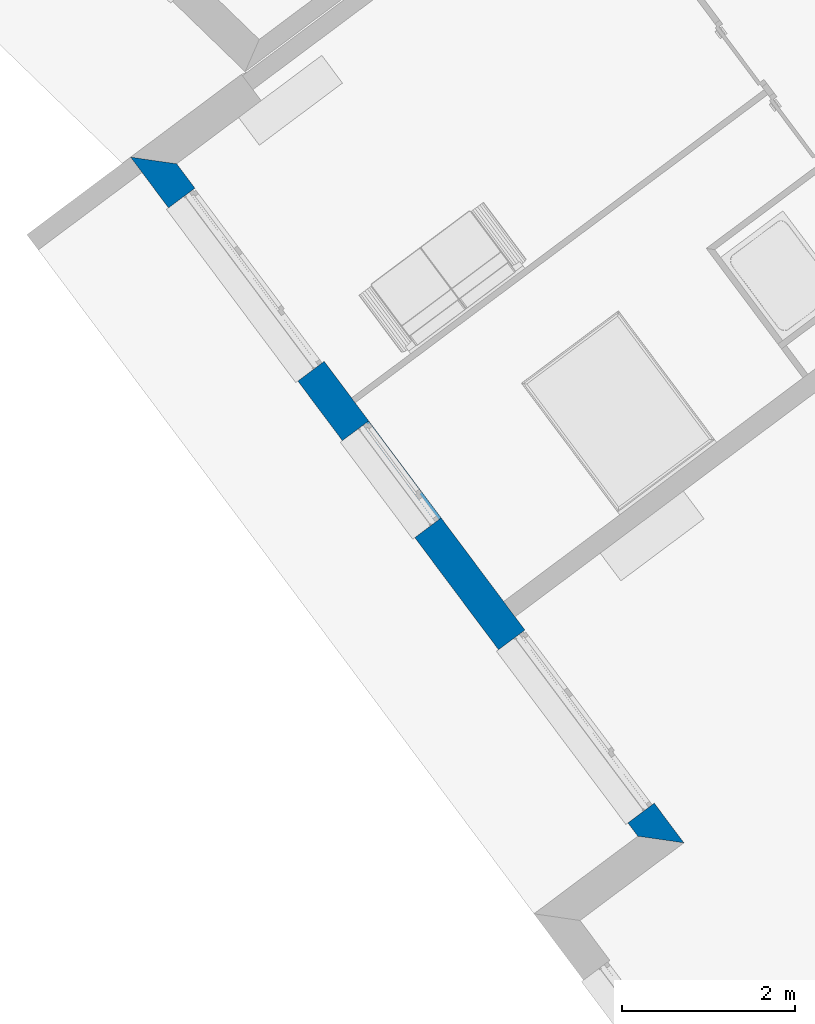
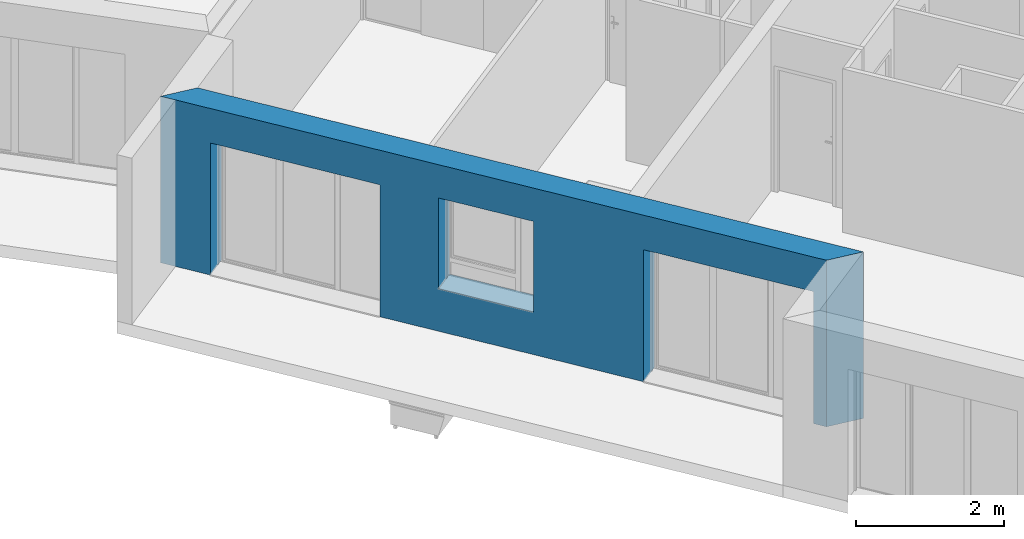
# One storey, part 5 of 195: 1 wall, 3 openings.
"""IFC2X3 building model written with IfcOpenShell, lengths in metres."""

import ifcopenshell
import ifcopenshell.guid

model = None  # the IFC model being written
_history = None  # IfcOwnerHistory: only IFC2X3 demands one
_inside = {}  # id of a spatial element -> (the spatial element, [elements in it])
_under = {}  # id of a project, library or spatial element -> (it, [spatial elements below it])
_declared = {}  # id of a project -> (the project, [libraries it declares])
_typed = {}  # id of a type object -> (the type object, [elements of that type])
_made_of = {}  # id of a material, layer set ... -> (it, [elements and type objects made of it])


def new_model(schema):
    """Start an empty IFC model of exactly this schema.

    Asked for "IFC4X3", IfcOpenShell would pick the latest addendum, in which some entities
    have other attributes; the version numbers below select the first issue.
    IFC2X3 requires an IfcOwnerHistory on every rooted entity: one is made here for all.
    """
    global model, _history
    if schema == "IFC4X3":
        model = ifcopenshell.file(schema_version=(4, 3, 0, 0))
    else:
        model = ifcopenshell.file(schema=schema)
    _inside.clear()
    _under.clear()
    _declared.clear()
    _typed.clear()
    _made_of.clear()
    _history = None
    if model.schema == "IFC2X3":
        org = make("IfcOrganization", Name="unknown")
        user = make(
            "IfcPersonAndOrganization",
            ThePerson=make("IfcPerson", FamilyName="unknown"),
            TheOrganization=org,
        )
        app = make(
            "IfcApplication",
            ApplicationDeveloper=org,
            Version="unknown",
            ApplicationFullName="unknown",
            ApplicationIdentifier="unknown",
        )
        _history = make(
            "IfcOwnerHistory",
            OwningUser=user,
            OwningApplication=app,
            ChangeAction="ADDED",
            CreationDate=0,
        )
    return model


def make(cls, **values):
    """One entity of the class cls with the attributes given. An attribute that is None is left unset."""
    return model.create_entity(
        cls, **{name: value for name, value in values.items() if value is not None}
    )


def entity(cls, *values):
    """Any entity or typed value of the class cls, its attributes in the order of the schema. None: left unset."""
    e = model.create_entity(cls)
    for i, value in enumerate(values):
        if value is not None:
            e[i] = value
    return e


def rooted(cls, **values):
    """An entity with a GlobalId (a new one), such as an element, a storey or a relation."""
    return make(cls, GlobalId=ifcopenshell.guid.new(), OwnerHistory=_history, **values)


def si_unit(unit_type, name, prefix=None):
    """IfcSIUnit, for example si_unit("LENGTHUNIT", "METRE", prefix="MILLI")."""
    return make("IfcSIUnit", UnitType=unit_type, Prefix=prefix, Name=name)


def converted_unit(unit_type, name, factor, base, dimensions=None, offset=None):
    """IfcConversionBasedUnit, such as the inch: factor (a typed value) times the base unit."""
    return make(
        "IfcConversionBasedUnit"
        if offset is None
        else "IfcConversionBasedUnitWithOffset",
        ConversionOffset=offset,
        Dimensions=None
        if dimensions is None
        else entity("IfcDimensionalExponents", *dimensions),
        UnitType=unit_type,
        Name=name,
        ConversionFactor=make(
            "IfcMeasureWithUnit", ValueComponent=factor, UnitComponent=base
        ),
    )


def derived_unit(unit_type, elements):
    """IfcDerivedUnit: a product of units, each with its exponent."""
    return make(
        "IfcDerivedUnit",
        Elements=[
            make("IfcDerivedUnitElement", Unit=unit, Exponent=power)
            for unit, power in elements
        ],
        UnitType=unit_type,
    )


def money_unit(currency):
    """IfcMonetaryUnit."""
    return make("IfcMonetaryUnit", Currency=currency)


def assignment(units):
    """IfcUnitAssignment: the units of a project."""
    return None if units is None else make("IfcUnitAssignment", Units=units)


def point(xyz):
    """IfcCartesianPoint."""
    return None if xyz is None else make("IfcCartesianPoint", Coordinates=xyz)


def direction(xyz):
    """IfcDirection."""
    return None if xyz is None else make("IfcDirection", DirectionRatios=xyz)


def frame(location, z_axis=None, x_axis=None):
    """IfcAxis2Placement3D, a coordinate frame: its origin and axes. An axis left out is left unset."""
    return make(
        "IfcAxis2Placement3D",
        Location=point(location),
        Axis=direction(z_axis),
        RefDirection=direction(x_axis),
    )


def origin_with_axes():
    """The frame at (0, 0, 0) with the z axis (0, 0, 1) and the x axis (1, 0, 0) written out."""
    return frame((0.0, 0.0, 0.0), z_axis=(0.0, 0.0, 1.0), x_axis=(1.0, 0.0, 0.0))


def place(relative_to, where):
    """IfcLocalPlacement: puts the frame where relative to a parent placement (None: the world)."""
    return make(
        "IfcLocalPlacement", PlacementRelTo=relative_to, RelativePlacement=where
    )


def context(
    kind, dimensions, precision=None, world=None, true_north=None, identifier=None
):
    """IfcGeometricRepresentationContext, for example the 3D "Model" context."""
    return make(
        "IfcGeometricRepresentationContext",
        ContextIdentifier=identifier,
        ContextType=kind,
        CoordinateSpaceDimension=dimensions,
        Precision=precision,
        WorldCoordinateSystem=world,
        TrueNorth=true_north,
    )


def subcontext(parent, identifier, kind, view, scale=None):
    """IfcGeometricRepresentationSubContext, for example "Body" below "Model"."""
    return make(
        "IfcGeometricRepresentationSubContext",
        ContextIdentifier=identifier,
        ContextType=kind,
        ParentContext=parent,
        TargetScale=scale,
        TargetView=view,
    )


def project(units=None, contexts=None):
    """IfcProject with its units and contexts."""
    return rooted(
        "IfcProject",
        Name="project",
        RepresentationContexts=contexts,
        UnitsInContext=assignment(units),
    )


def spatial(cls, under=None, at=None, **own):
    """A site, building, storey or space (cls), placed at a placement, below another one or the project."""
    s = rooted(cls, ObjectPlacement=at, **own)
    if under is not None:
        _under.setdefault(under.id(), (under, []))[1].append(s)
    return s


def polyline(points):
    """IfcPolyline through the points."""
    return make("IfcPolyline", Points=[point(p) for p in points])


def outline(outer, holes=None, kind="AREA"):
    """IfcArbitraryClosedProfileDef: a profile drawn as a closed curve; with holes, ...WithVoids."""
    if holes is None:
        return make("IfcArbitraryClosedProfileDef", ProfileType=kind, OuterCurve=outer)
    return make(
        "IfcArbitraryProfileDefWithVoids",
        ProfileType=kind,
        OuterCurve=outer,
        InnerCurves=holes,
    )


def extrude(swept, where, along, depth):
    """IfcExtrudedAreaSolid: the profile swept, set in the frame where, extruded along a direction by depth."""
    return make(
        "IfcExtrudedAreaSolid",
        SweptArea=swept,
        Position=where,
        ExtrudedDirection=direction(along),
        Depth=depth,
    )


def faces_of(points, faces, orient=None, outer=None):
    """IfcFace entities. A face is a list of loops; a loop is a list of indices into points, from 0.

    orient and outer hold one flag for each loop. By default every Orientation is true, the
    first loop of a face is its IfcFaceOuterBound and the others are IfcFaceBound.
    """
    made = []
    for i, loops in enumerate(faces):
        bounds = []
        for j, loop in enumerate(loops):
            is_outer = j == 0 if outer is None else outer[i][j]
            bounds.append(
                make(
                    "IfcFaceOuterBound" if is_outer else "IfcFaceBound",
                    Bound=make("IfcPolyLoop", Polygon=[points[k] for k in loop]),
                    Orientation=True if orient is None else orient[i][j],
                )
            )
        made.append(make("IfcFace", Bounds=bounds))
    return made


def faceted_brep(points, faces, orient=None, outer=None, voids=None):
    """IfcFacetedBrep: a solid bounded by flat faces; with voids (closed shells), ...WithVoids."""
    shared = [point(p) for p in points]
    hull = make("IfcClosedShell", CfsFaces=faces_of(shared, faces, orient, outer))
    if voids is None:
        return make("IfcFacetedBrep", Outer=hull)
    return make(
        "IfcFacetedBrepWithVoids",
        Outer=hull,
        Voids=[
            make(cls, CfsFaces=faces_of(shared, fs, o, b)) for cls, fs, o, b in voids
        ],
    )


def shape(context_of_items, identifier, shape_type, items):
    """IfcShapeRepresentation: the items that make up one representation, for example the "Body"."""
    return make(
        "IfcShapeRepresentation",
        ContextOfItems=context_of_items,
        RepresentationIdentifier=identifier,
        RepresentationType=shape_type,
        Items=items,
    )


def material(Name=None, Category=None):
    """IfcMaterial."""
    return make("IfcMaterial", Name=Name, Category=Category)


def layer(
    of_material, thickness, ventilated=None, Name=None, Category=None, Priority=None
):
    """IfcMaterialLayer: one layer of a wall or slab, of a material (None: an air gap)."""
    return make(
        "IfcMaterialLayer",
        Material=of_material,
        LayerThickness=thickness,
        IsVentilated=ventilated,
        Name=Name,
        Category=Category,
        Priority=Priority,
    )


def layer_set(layers, Name=None):
    """IfcMaterialLayerSet."""
    return make("IfcMaterialLayerSet", MaterialLayers=layers, LayerSetName=Name)


def layer_usage(for_layer_set, set_direction, sense, offset, extent=None):
    """IfcMaterialLayerSetUsage: how a layer set lies in its element."""
    return make(
        "IfcMaterialLayerSetUsage",
        ForLayerSet=for_layer_set,
        LayerSetDirection=set_direction,
        DirectionSense=sense,
        OffsetFromReferenceLine=offset,
        ReferenceExtent=extent,
    )


def made_of(thing, what):
    """Note that an element or type object is made of a material, layer set ...; save() writes the relation."""
    if what is not None:
        _made_of.setdefault(what.id(), (what, []))[1].append(thing)
    return thing


def type_object(cls, material=None, **own):
    """A type object (cls), such as IfcWallType, which elements share."""
    return made_of(rooted(cls, **own), material)


def element(
    cls,
    number,
    at=None,
    inside=None,
    cuts=None,
    type_object=None,
    material=None,
    context=None,
    identifier="Body",
    shape_type=None,
    held_by="IfcProductDefinitionShape",
    body=None,
    shapes=None,
    **own,
):
    """One element of the class cls, such as IfcWall. Its Tag is "e" and its number.

    at: its placement. inside: the storey or other place that contains it. cuts: it is an
    opening in that element (IfcRelVoidsElement). A single representation is given by context,
    identifier, shape_type and body (its items); several are given by shapes. held_by: the class
    of the entity that holds the representations. save() writes the other relations.
    """
    e = rooted(cls, Tag="e%d" % number, ObjectPlacement=at, **own)
    if body is not None:
        shapes = [shape(context, identifier, shape_type, body)]
    if shapes is not None:
        e.Representation = make(held_by, Representations=shapes)
    if inside is not None:
        _inside.setdefault(inside.id(), (inside, []))[1].append(e)
    if cuts is not None:
        rooted(
            "IfcRelVoidsElement", RelatingBuildingElement=cuts, RelatedOpeningElement=e
        )
    if type_object is not None:
        _typed.setdefault(type_object.id(), (type_object, []))[1].append(e)
    return made_of(e, material)


def aggregate(whole, parts):
    """IfcRelAggregates: a whole, such as a stair, and the parts it consists of."""
    return rooted("IfcRelAggregates", RelatingObject=whole, RelatedObjects=parts)


def save(model, path):
    """Write the relations noted so far, then the file.

    IfcRelAggregates (storeys below a building ...), IfcRelContainedInSpatialStructure (elements
    in a storey), IfcRelDefinesByType, IfcRelAssociatesMaterial and IfcRelDeclares: one each for
    every whole, place, type object, material and project.
    """
    for whole, parts in _under.values():
        aggregate(whole, parts)
    for where, things in _inside.values():
        rooted(
            "IfcRelContainedInSpatialStructure",
            RelatedElements=things,
            RelatingStructure=where,
        )
    for kind, things in _typed.values():
        rooted("IfcRelDefinesByType", RelatedObjects=things, RelatingType=kind)
    for what, things in _made_of.values():
        rooted("IfcRelAssociatesMaterial", RelatedObjects=things, RelatingMaterial=what)
    for by, libraries in _declared.values():
        rooted("IfcRelDeclares", RelatingContext=by, RelatedDefinitions=libraries)
    model.write(path)


model = new_model("IFC2X3")

# Units and contexts
model_context = context("Model", 3, precision=1e-05, world=origin_with_axes(), true_north=direction((0.0, 1.0)))
body_context = subcontext(model_context, "Body", "Model", "MODEL_VIEW")
ifc_project = project(units=[si_unit("LENGTHUNIT", "METRE"), si_unit("AREAUNIT", "SQUARE_METRE"), si_unit("VOLUMEUNIT", "CUBIC_METRE"), converted_unit("PLANEANGLEUNIT", "DEGREE", entity("IfcPlaneAngleMeasure", 0.0174532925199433), si_unit("PLANEANGLEUNIT", "RADIAN"), dimensions=[0, 0, 0, 0, 0, 0, 0]), money_unit("CHF"), converted_unit("TIMEUNIT", "Year", entity("IfcTimeMeasure", 31557600.0), si_unit("TIMEUNIT", "SECOND"), dimensions=[0, 0, 1, 0, 0, 0, 0]), si_unit("MASSUNIT", "GRAM", prefix="KILO"), si_unit("THERMODYNAMICTEMPERATUREUNIT", "DEGREE_CELSIUS"), si_unit("LUMINOUSINTENSITYUNIT", "LUMEN"), si_unit("ENERGYUNIT", "JOULE", prefix="MEGA"), derived_unit("THERMALCONDUCTANCEUNIT", [(si_unit("POWERUNIT", "WATT"), 1), (si_unit("LENGTHUNIT", "METRE"), -1), (si_unit("THERMODYNAMICTEMPERATUREUNIT", "KELVIN"), -1)]), derived_unit("SPECIFICHEATCAPACITYUNIT", [(si_unit("ENERGYUNIT", "JOULE"), 1), (si_unit("MASSUNIT", "GRAM", prefix="KILO"), -1), (si_unit("THERMODYNAMICTEMPERATUREUNIT", "KELVIN"), -1)]), derived_unit("MASSDENSITYUNIT", [(si_unit("MASSUNIT", "GRAM", prefix="KILO"), 1), (si_unit("VOLUMEUNIT", "CUBIC_METRE"), -1)])], contexts=[model_context])

# Site, building, storey
site_placement = place(None, origin_with_axes())
site = spatial("IfcSite", under=ifc_project, at=site_placement, Name="Site", CompositionType="ELEMENT")
building_placement = place(site_placement, origin_with_axes())
building = spatial("IfcBuilding", under=site, at=building_placement, Name="Bâtiment", CompositionType="ELEMENT")
storey_placement = place(building_placement, origin_with_axes())
storey = spatial("IfcBuildingStorey", under=building, at=storey_placement, Name="rdc", CompositionType="ELEMENT", Elevation=0.0)

# Wall, openings
ifc_material_1 = material(Name="Parpaing 312445824")
ifc_layer_1 = layer(ifc_material_1, 0.22, ventilated="UNKNOWN")
ifc_material_2 = material(Name="Isolant styromousse 301821074")
ifc_layer_2 = layer(ifc_material_2, 0.16, ventilated="UNKNOWN")
ifc_layer_set = layer_set([ifc_layer_1, ifc_layer_2], Name="isol int 22+16 0836643197")
ifc_layer_usage = layer_usage(ifc_layer_set, "AXIS2", "POSITIVE", 0.0)
wall_type = type_object("IfcWallType", Name="isol int 22+16 0836643197 380", PredefinedType="NOTDEFINED")
wall_placement = place(storey_placement, frame((9528.242165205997, -1076.621814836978, 57.7), z_axis=(0.0, 0.0, 1.0), x_axis=(0.5984464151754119, -0.8011628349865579, 0.0)))
wall = element("IfcWallStandardCase", 1, at=wall_placement, inside=storey, type_object=wall_type, material=ifc_layer_usage, Name="Mur-113", context=body_context, shape_type="SweptSolid", body=[
    extrude(outline(polyline([(-1.48929757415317e-10, 0.0), (9.803691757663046, 0.0), (10.18369175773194, 0.3799999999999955), (0.3799999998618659, 0.3799999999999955), (-1.48929757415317e-10, 0.0)])), origin_with_axes(), (0.0, 0.0, 1.0), 2.75),
])
opening_1_placement = place(wall_placement, frame((1.982307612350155, 0.0, 0.0), z_axis=(0.0, 0.0, 1.0), x_axis=(1.0, 0.0, 0.0)))
element("IfcOpeningElement", 2, at=opening_1_placement, cuts=wall, Name="Fen-045", context=body_context, shape_type="Brep", body=[
    faceted_brep([(-1.25, 0.4799999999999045, 2.18), (1.250000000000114, 0.4799999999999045, 2.18), (1.25, 5.081409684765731, 2.18), (-1.25, 5.081409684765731, 2.18), (-1.25, 0.4799999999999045, 2.380000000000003), (1.250000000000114, 0.4799999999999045, 2.380000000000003), (1.25, 0.2999999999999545, 2.18), (1.25, 0.2999999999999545, 0.0), (1.25, 5.081409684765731, 0.0), (-1.25, 5.081409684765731, 0.0), (-1.249999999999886, 0.2999999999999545, 2.18), (-1.249999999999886, 0.2999999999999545, 0.0), (-1.25, 0.2199999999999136, 2.18), (-1.25, 0.2199999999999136, 2.380000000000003), (1.250000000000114, 0.2200000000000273, 2.380000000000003), (1.250000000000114, 0.2200000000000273, 2.18), (1.25, -4.701409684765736, 2.18), (1.25, -4.701409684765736, 0.0), (-1.25, -4.701409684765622, 0.0), (-1.25, -4.701409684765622, 2.18)], [[[0, 1, 2, 3]], [[1, 0, 4, 5]], [[1, 6, 7, 8, 2]], [[2, 8, 9, 3]], [[10, 0, 3, 9, 11]], [[0, 10, 12, 13, 4]], [[14, 5, 4, 13]], [[6, 1, 5, 14, 15]], [[6, 15, 16, 17, 7]], [[7, 11, 9, 8]], [[12, 10, 11, 18, 19]], [[12, 15, 14, 13]], [[15, 12, 19, 16]], [[19, 18, 17, 16]], [[11, 7, 17, 18]]]),
])
opening_2_placement = place(wall_placement, frame((4.792672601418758, 0.0, 0.7000000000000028), z_axis=(0.0, 0.0, 1.0), x_axis=(1.0, 0.0, 0.0)))
element("IfcOpeningElement", 3, at=opening_2_placement, cuts=wall, Name="Fen-045", context=body_context, shape_type="Brep", body=[
    faceted_brep([(-0.7000000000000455, 0.4799999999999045, 1.5), (0.7000000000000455, 0.4799999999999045, 1.5), (0.7000000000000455, 5.081409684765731, 1.5), (-0.7000000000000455, 5.081409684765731, 1.5), (-0.7000000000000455, 0.4799999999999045, 1.700000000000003), (0.7000000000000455, 0.4799999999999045, 1.700000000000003), (0.7000000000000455, 0.2999999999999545, 1.5), (0.7000000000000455, 0.2999999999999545, 0.0), (0.7000000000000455, 5.081409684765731, 0.0), (-0.7000000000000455, 5.081409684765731, 0.0), (-0.7000000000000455, 0.2999999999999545, 1.5), (-0.7000000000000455, 0.2999999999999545, 0.0), (-0.7000000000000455, 0.2200000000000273, 1.5), (-0.7000000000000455, 0.2200000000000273, 1.700000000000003), (0.7000000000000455, 0.2200000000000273, 1.700000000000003), (0.7000000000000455, 0.2200000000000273, 1.5), (0.7000000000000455, -4.701409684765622, 1.5), (0.7000000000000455, -4.701409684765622, 0.0), (-0.7000000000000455, -4.701409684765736, 0.0), (-0.7000000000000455, -4.701409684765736, 1.5)], [[[0, 1, 2, 3]], [[1, 0, 4, 5]], [[1, 6, 7, 8, 2]], [[2, 8, 9, 3]], [[10, 0, 3, 9, 11]], [[0, 10, 12, 13, 4]], [[14, 5, 4, 13]], [[6, 1, 5, 14, 15]], [[6, 15, 16, 17, 7]], [[7, 11, 9, 8]], [[12, 10, 11, 18, 19]], [[12, 15, 14, 13]], [[15, 12, 19, 16]], [[19, 18, 17, 16]], [[11, 7, 17, 18]]]),
])
opening_3_placement = place(wall_placement, frame((8.361343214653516, 0.0, 0.0), z_axis=(0.0, 0.0, 1.0), x_axis=(1.0, 0.0, 0.0)))
element("IfcOpeningElement", 4, at=opening_3_placement, cuts=wall, Name="Fen-045", context=body_context, shape_type="Brep", body=[
    faceted_brep([(-1.250000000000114, 0.4800000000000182, 2.18), (1.25, 0.4800000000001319, 2.18), (1.25, 5.081409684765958, 2.18), (-1.250000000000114, 5.081409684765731, 2.18), (-1.250000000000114, 0.4800000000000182, 2.380000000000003), (1.25, 0.4800000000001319, 2.380000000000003), (1.25, 0.3000000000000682, 2.18), (1.25, 0.3000000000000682, 0.0), (1.25, 5.081409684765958, 0.0), (-1.250000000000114, 5.081409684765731, 0.0), (-1.250000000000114, 0.3000000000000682, 2.18), (-1.250000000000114, 0.3000000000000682, 0.0), (-1.25, 0.220000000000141, 2.18), (-1.25, 0.220000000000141, 2.380000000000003), (1.25, 0.220000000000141, 2.380000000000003), (1.25, 0.220000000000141, 2.18), (1.249999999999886, -4.701409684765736, 2.18), (1.249999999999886, -4.701409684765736, 0.0), (-1.25, -4.701409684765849, 0.0), (-1.25, -4.701409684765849, 2.18)], [[[0, 1, 2, 3]], [[1, 0, 4, 5]], [[1, 6, 7, 8, 2]], [[2, 8, 9, 3]], [[10, 0, 3, 9, 11]], [[0, 10, 12, 13, 4]], [[14, 5, 4, 13]], [[6, 1, 5, 14, 15]], [[6, 15, 16, 17, 7]], [[7, 11, 9, 8]], [[12, 10, 11, 18, 19]], [[12, 15, 14, 13]], [[15, 12, 19, 16]], [[19, 18, 17, 16]], [[11, 7, 17, 18]]]),
])

save(model, "model.ifc")
